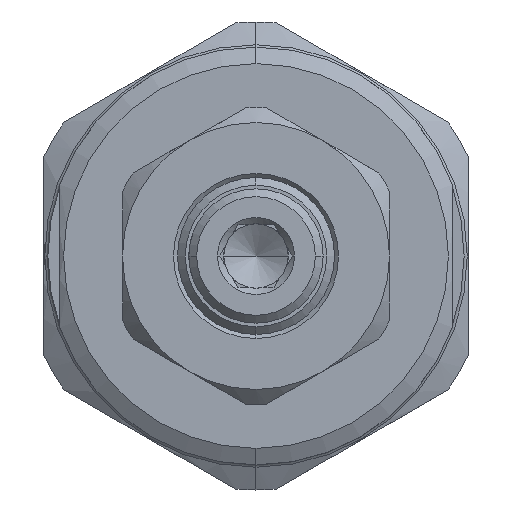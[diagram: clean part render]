
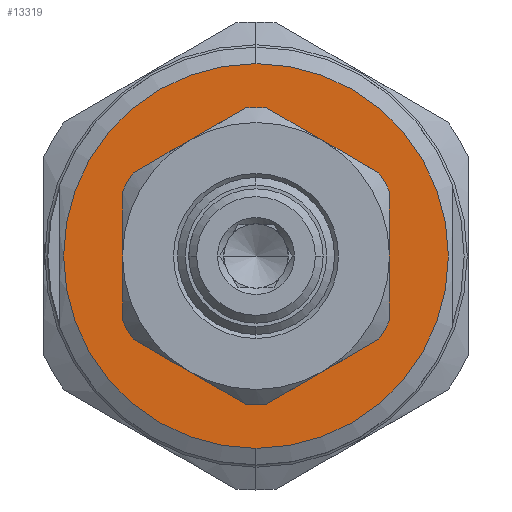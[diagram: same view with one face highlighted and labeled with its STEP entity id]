
A CAD part, left-side view. The second image highlights one B-rep face of the part: STEP entity #13319.
In plain terms, the highlighted planar face has unit normal (-1, 0, 0).
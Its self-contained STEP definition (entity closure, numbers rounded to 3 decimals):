
#307 = CIRCLE ( 'NONE', #8615, 8.5 ) ;
#424 = FACE_BOUND ( 'NONE', #12153, .T. ) ;
#520 = DIRECTION ( 'NONE',  ( -1., 0., 0. ) ) ;
#682 = DIRECTION ( 'NONE',  ( -1., 0., 0. ) ) ;
#929 = ORIENTED_EDGE ( 'NONE', *, *, #10404, .F. ) ;
#1080 = VERTEX_POINT ( 'NONE', #3022 ) ;
#1090 = CARTESIAN_POINT ( 'NONE',  ( -5., 4.25, -7.361 ) ) ;
#1292 = DIRECTION ( 'NONE',  ( -1., 0., 0. ) ) ;
#1331 = VERTEX_POINT ( 'NONE', #8503 ) ;
#1433 = AXIS2_PLACEMENT_3D ( 'NONE', #13218, #5846, #14480 ) ;
#1731 = VERTEX_POINT ( 'NONE', #14837 ) ;
#1901 = VERTEX_POINT ( 'NONE', #4303 ) ;
#2452 = VERTEX_POINT ( 'NONE', #7013 ) ;
#2456 = AXIS2_PLACEMENT_3D ( 'NONE', #12346, #4979, #13566 ) ;
#2473 = CARTESIAN_POINT ( 'NONE',  ( -5., 0., 0. ) ) ;
#2579 = CARTESIAN_POINT ( 'NONE',  ( -5., -12.25, 0. ) ) ;
#2790 = ORIENTED_EDGE ( 'NONE', *, *, #14535, .F. ) ;
#3002 = EDGE_CURVE ( 'NONE', #1080, #1331, #11664, .T. ) ;
#3022 = CARTESIAN_POINT ( 'NONE',  ( -5., -8.5, 0. ) ) ;
#3081 = EDGE_CURVE ( 'NONE', #1731, #1080, #6051, .T. ) ;
#3457 = EDGE_CURVE ( 'NONE', #5633, #13781, #3961, .T. ) ;
#3697 = CARTESIAN_POINT ( 'NONE',  ( -5., 0., 0. ) ) ;
#3722 = DIRECTION ( 'NONE',  ( 0., 0., 1. ) ) ;
#3827 = DIRECTION ( 'NONE',  ( 0., 0., -1. ) ) ;
#3961 = CIRCLE ( 'NONE', #5370, 12.25 ) ;
#4303 = CARTESIAN_POINT ( 'NONE',  ( -5., 8.5, 0. ) ) ;
#4945 = DIRECTION ( 'NONE',  ( 0., -1., 0. ) ) ;
#4979 = DIRECTION ( 'NONE',  ( -1., 0., 0. ) ) ;
#5370 = AXIS2_PLACEMENT_3D ( 'NONE', #2473, #11111, #3722 ) ;
#5479 = CIRCLE ( 'NONE', #2456, 8.5 ) ;
#5633 = VERTEX_POINT ( 'NONE', #15157 ) ;
#5846 = DIRECTION ( 'NONE',  ( 1., 0., 0. ) ) ;
#6051 = CIRCLE ( 'NONE', #10439, 8.5 ) ;
#6772 = AXIS2_PLACEMENT_3D ( 'NONE', #14190, #6820, #15429 ) ;
#6820 = DIRECTION ( 'NONE',  ( -1., 0., 0. ) ) ;
#6984 = ORIENTED_EDGE ( 'NONE', *, *, #3081, .F. ) ;
#7013 = CARTESIAN_POINT ( 'NONE',  ( -5., 4.25, 7.361 ) ) ;
#7100 = ORIENTED_EDGE ( 'NONE', *, *, #10684, .F. ) ;
#7484 = ORIENTED_EDGE ( 'NONE', *, *, #3002, .F. ) ;
#7940 = CARTESIAN_POINT ( 'NONE',  ( -5., 0., 0. ) ) ;
#8112 = CARTESIAN_POINT ( 'NONE',  ( -5., 0., 0. ) ) ;
#8503 = CARTESIAN_POINT ( 'NONE',  ( -5., -4.25, 7.361 ) ) ;
#8615 = AXIS2_PLACEMENT_3D ( 'NONE', #8709, #1292, #9933 ) ;
#8709 = CARTESIAN_POINT ( 'NONE',  ( -5., 0., 0. ) ) ;
#8913 = VERTEX_POINT ( 'NONE', #1090 ) ;
#8987 = ORIENTED_EDGE ( 'NONE', *, *, #14730, .F. ) ;
#9182 = DIRECTION ( 'NONE',  ( 0., -1., 0. ) ) ;
#9357 = DIRECTION ( 'NONE',  ( 0., -1., 0. ) ) ;
#9449 = CIRCLE ( 'NONE', #1433, 12.25 ) ;
#9933 = DIRECTION ( 'NONE',  ( 0., -1., 0. ) ) ;
#10404 = EDGE_CURVE ( 'NONE', #1901, #8913, #10573, .T. ) ;
#10439 = AXIS2_PLACEMENT_3D ( 'NONE', #8112, #682, #9357 ) ;
#10573 = CIRCLE ( 'NONE', #15933, 8.5 ) ;
#10625 = AXIS2_PLACEMENT_3D ( 'NONE', #2579, #11215, #3827 ) ;
#10684 = EDGE_CURVE ( 'NONE', #1331, #2452, #12832, .T. ) ;
#11054 = ORIENTED_EDGE ( 'NONE', *, *, #3457, .F. ) ;
#11111 = DIRECTION ( 'NONE',  ( 1., 0., 0. ) ) ;
#11129 = ORIENTED_EDGE ( 'NONE', *, *, #11849, .F. ) ;
#11215 = DIRECTION ( 'NONE',  ( -1., 0., 0. ) ) ;
#11263 = EDGE_LOOP ( 'NONE', ( #2790, #11054 ) ) ;
#11664 = CIRCLE ( 'NONE', #15682, 8.5 ) ;
#11849 = EDGE_CURVE ( 'NONE', #2452, #1901, #5479, .T. ) ;
#12021 = CARTESIAN_POINT ( 'NONE',  ( -5., 0., 12.25 ) ) ;
#12153 = EDGE_LOOP ( 'NONE', ( #929, #11129, #7100, #7484, #6984, #8987 ) ) ;
#12313 = DIRECTION ( 'NONE',  ( -1., 0., 0. ) ) ;
#12346 = CARTESIAN_POINT ( 'NONE',  ( -5., 0., 0. ) ) ;
#12832 = CIRCLE ( 'NONE', #6772, 8.5 ) ;
#13218 = CARTESIAN_POINT ( 'NONE',  ( -5., 0., 0. ) ) ;
#13319 = ADVANCED_FACE ( 'NONE', ( #13543, #424 ), #13614, .T. ) ;
#13543 = FACE_OUTER_BOUND ( 'NONE', #11263, .T. ) ;
#13566 = DIRECTION ( 'NONE',  ( 0., -1., 0. ) ) ;
#13614 = PLANE ( 'NONE',  #10625 ) ;
#13781 = VERTEX_POINT ( 'NONE', #12021 ) ;
#14190 = CARTESIAN_POINT ( 'NONE',  ( -5., 0., 0. ) ) ;
#14480 = DIRECTION ( 'NONE',  ( 0., 0., 1. ) ) ;
#14535 = EDGE_CURVE ( 'NONE', #13781, #5633, #9449, .T. ) ;
#14730 = EDGE_CURVE ( 'NONE', #8913, #1731, #307, .T. ) ;
#14837 = CARTESIAN_POINT ( 'NONE',  ( -5., -4.25, -7.361 ) ) ;
#15157 = CARTESIAN_POINT ( 'NONE',  ( -5., 0., -12.25 ) ) ;
#15429 = DIRECTION ( 'NONE',  ( 0., -1., 0. ) ) ;
#15682 = AXIS2_PLACEMENT_3D ( 'NONE', #7940, #520, #9182 ) ;
#15933 = AXIS2_PLACEMENT_3D ( 'NONE', #3697, #12313, #4945 ) ;
